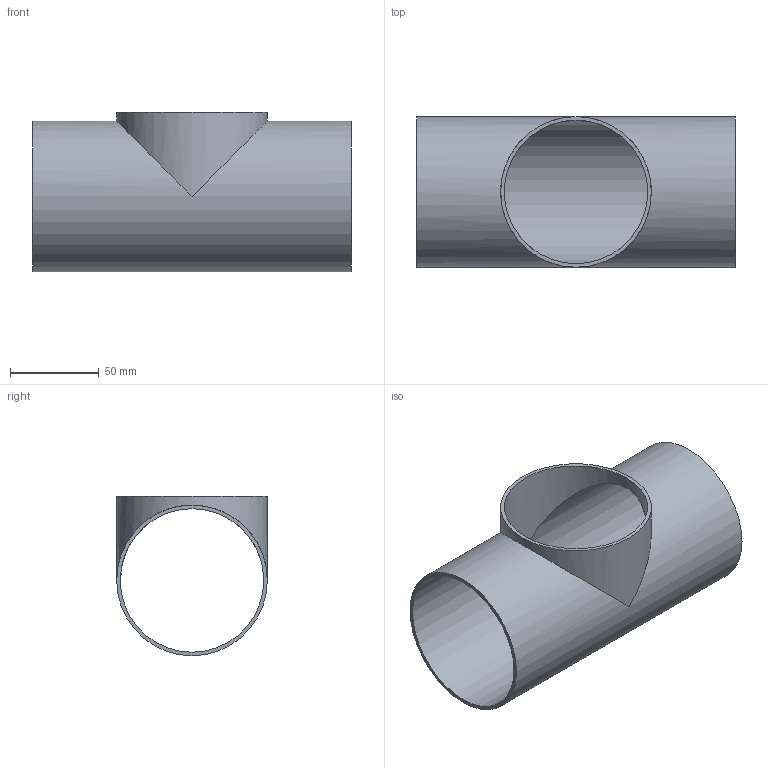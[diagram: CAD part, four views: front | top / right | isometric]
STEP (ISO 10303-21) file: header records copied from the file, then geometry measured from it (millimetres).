
FILE_DESCRIPTION(('FreeCAD Model'),'2;1');
FILE_NAME( '/home/martin/Documents/proyect/accesorios/stp/te_short_DN-80.step', '2018-01-07T08:12:20',('Author'),(''), 'Open CASCADE STEP processor 6.8','FreeCAD','Unknown');
FILE_SCHEMA(('AUTOMOTIVE_DESIGN_CC2 { 1 2 10303 214 -1 1 5 4 }'));
Length unit declared in the file: millimetre
Products named in the file (1): te_short_DN-80
Bounding box: 180 x 85 x 90 mm (x, y, z)
Volume: 91080.9 mm3; surface area: 92634.8 mm2
Topology: 1 solids, 1 shells, 7 faces, 16 edges, 12 vertices
Faces by surface type: cylinder 4, plane 3
Full cylindrical faces by diameter (mm): 81 x2, 85 x2
Entity records: 539 total; most frequent: CARTESIAN_POINT 180, DIRECTION 64, ORIENTED_EDGE 32, PCURVE 32, DEFINITIONAL_REPRESENTATION 32, AXIS2_PLACEMENT_3D 20, LINE 18, VECTOR 18
